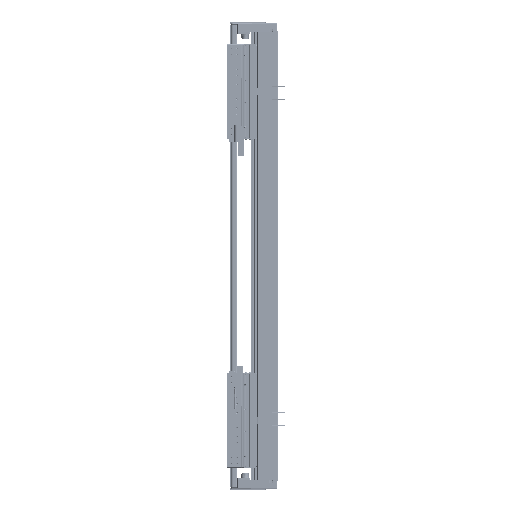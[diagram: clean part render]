
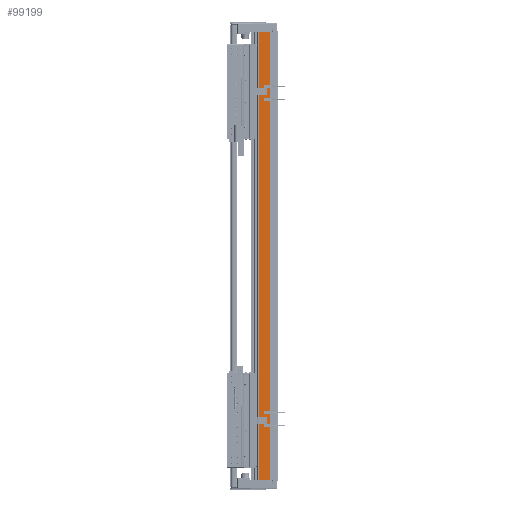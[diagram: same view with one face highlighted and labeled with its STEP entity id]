
A CAD part, left-side view. The second image highlights one B-rep face of the part: STEP entity #99199.
In plain terms, the highlighted planar face has unit normal (-1, 0, 0).
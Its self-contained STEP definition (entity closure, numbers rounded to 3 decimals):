
#5225 = ORIENTED_EDGE ( 'NONE', *, *, #50142, .T. ) ;
#14202 = CARTESIAN_POINT ( 'NONE',  ( -97.5, 36.95, 450. ) ) ;
#20289 = LINE ( 'NONE', #127387, #35081 ) ;
#21317 = CARTESIAN_POINT ( 'NONE',  ( -97.5, 36.95, 450. ) ) ;
#25462 = DIRECTION ( 'NONE',  ( 0., 0., -1. ) ) ;
#25707 = PLANE ( 'NONE',  #149822 ) ;
#26121 = DIRECTION ( 'NONE',  ( 0., 0., -1. ) ) ;
#28387 = CARTESIAN_POINT ( 'NONE',  ( -97.5, 36.95, -450. ) ) ;
#29289 = VERTEX_POINT ( 'NONE', #28387 ) ;
#32814 = EDGE_CURVE ( 'NONE', #29289, #78311, #20289, .T. ) ;
#34128 = LINE ( 'NONE', #40121, #38525 ) ;
#35081 = VECTOR ( 'NONE', #136580, 1000. ) ;
#35423 = ORIENTED_EDGE ( 'NONE', *, *, #32814, .T. ) ;
#38525 = VECTOR ( 'NONE', #87525, 1000. ) ;
#40121 = CARTESIAN_POINT ( 'NONE',  ( -97.5, 36.95, 450. ) ) ;
#41014 = EDGE_LOOP ( 'NONE', ( #35423, #124780, #99610, #5225 ) ) ;
#46397 = DIRECTION ( 'NONE',  ( 1., 0., 0. ) ) ;
#50142 = EDGE_CURVE ( 'NONE', #87154, #29289, #59033, .T. ) ;
#59033 = LINE ( 'NONE', #93490, #134195 ) ;
#60607 = CARTESIAN_POINT ( 'NONE',  ( -97.5, 14.45, 450. ) ) ;
#68741 = CARTESIAN_POINT ( 'NONE',  ( -97.5, 14.45, -450. ) ) ;
#78311 = VERTEX_POINT ( 'NONE', #68741 ) ;
#87154 = VERTEX_POINT ( 'NONE', #21317 ) ;
#87525 = DIRECTION ( 'NONE',  ( 0., -1., 0. ) ) ;
#91639 = CARTESIAN_POINT ( 'NONE',  ( -97.5, 14.45, 450. ) ) ;
#93490 = CARTESIAN_POINT ( 'NONE',  ( -97.5, 36.95, 450. ) ) ;
#96062 = FACE_OUTER_BOUND ( 'NONE', #41014, .T. ) ;
#98069 = LINE ( 'NONE', #60607, #120075 ) ;
#99199 = ADVANCED_FACE ( 'NONE', ( #96062 ), #25707, .F. ) ;
#99610 = ORIENTED_EDGE ( 'NONE', *, *, #123986, .F. ) ;
#120075 = VECTOR ( 'NONE', #25462, 1000. ) ;
#123986 = EDGE_CURVE ( 'NONE', #87154, #137023, #34128, .T. ) ;
#124780 = ORIENTED_EDGE ( 'NONE', *, *, #146511, .F. ) ;
#127387 = CARTESIAN_POINT ( 'NONE',  ( -97.5, 36.95, -450. ) ) ;
#129771 = DIRECTION ( 'NONE',  ( 0., 1., 0. ) ) ;
#134195 = VECTOR ( 'NONE', #26121, 1000. ) ;
#136580 = DIRECTION ( 'NONE',  ( 0., -1., 0. ) ) ;
#137023 = VERTEX_POINT ( 'NONE', #91639 ) ;
#146511 = EDGE_CURVE ( 'NONE', #137023, #78311, #98069, .T. ) ;
#149822 = AXIS2_PLACEMENT_3D ( 'NONE', #14202, #46397, #129771 ) ;
